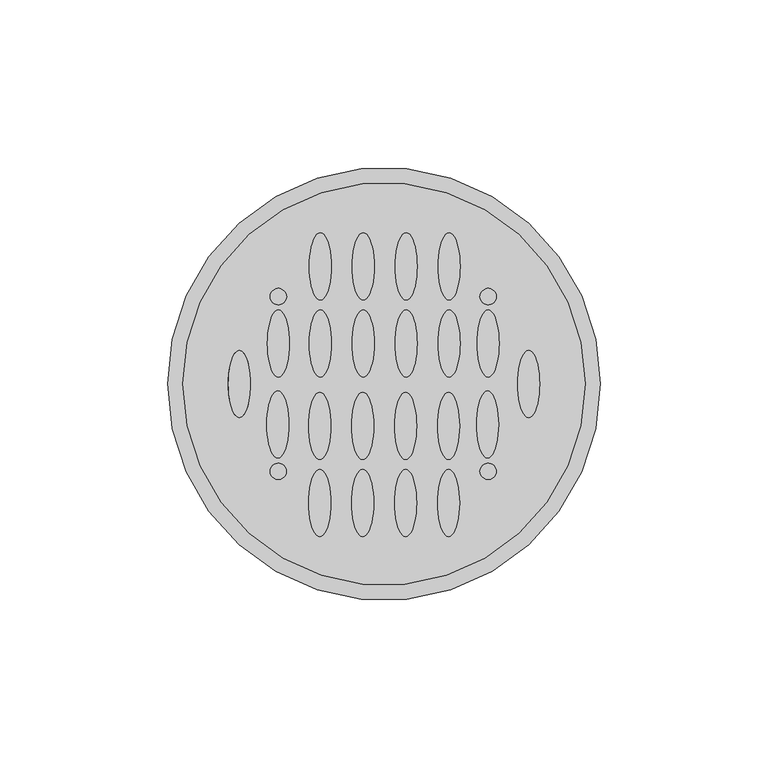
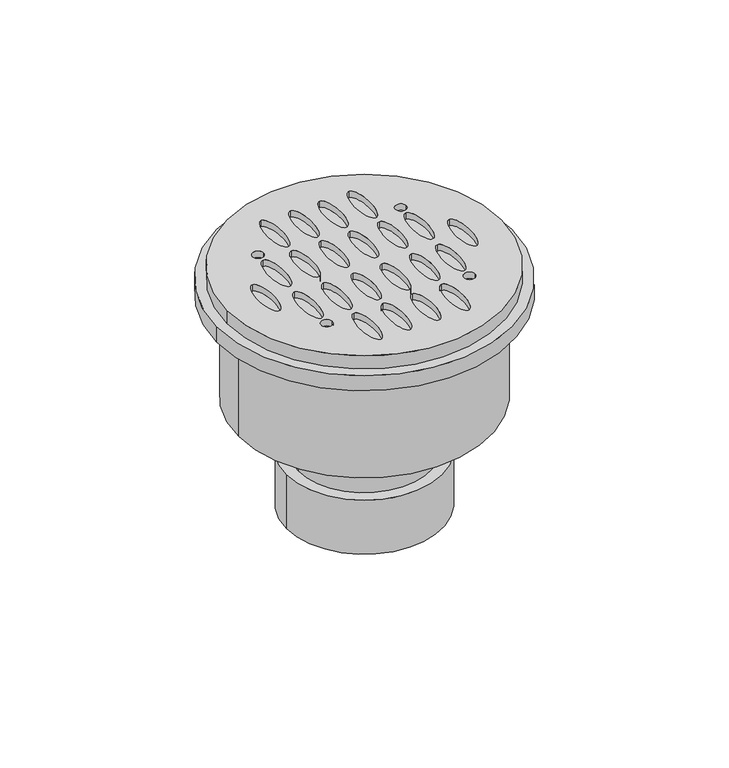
"""IFC4 building model written with IfcOpenShell, lengths in millimetres: pipe fitting geometry, AmancoWavin_Unionesdetubería_SanitarioPVCColaderaSanitariaCementar : Cementar 110 mm."""

import ifcopenshell
import ifcopenshell.guid

model = None  # the IFC model being written
_history = None  # IfcOwnerHistory: only IFC2X3 demands one
_inside = {}  # id of a spatial element -> (the spatial element, [elements in it])
_under = {}  # id of a project, library or spatial element -> (it, [spatial elements below it])
_declared = {}  # id of a project -> (the project, [libraries it declares])
_typed = {}  # id of a type object -> (the type object, [elements of that type])
_made_of = {}  # id of a material, layer set ... -> (it, [elements and type objects made of it])


def new_model(schema):
    """Start an empty IFC model of exactly this schema.

    Asked for "IFC4X3", IfcOpenShell would pick the latest addendum, in which some entities
    have other attributes; the version numbers below select the first issue.
    IFC2X3 requires an IfcOwnerHistory on every rooted entity: one is made here for all.
    """
    global model, _history
    if schema == "IFC4X3":
        model = ifcopenshell.file(schema_version=(4, 3, 0, 0))
    else:
        model = ifcopenshell.file(schema=schema)
    _inside.clear()
    _under.clear()
    _declared.clear()
    _typed.clear()
    _made_of.clear()
    _history = None
    if model.schema == "IFC2X3":
        org = make("IfcOrganization", Name="unknown")
        user = make(
            "IfcPersonAndOrganization",
            ThePerson=make("IfcPerson", FamilyName="unknown"),
            TheOrganization=org,
        )
        app = make(
            "IfcApplication",
            ApplicationDeveloper=org,
            Version="unknown",
            ApplicationFullName="unknown",
            ApplicationIdentifier="unknown",
        )
        _history = make(
            "IfcOwnerHistory",
            OwningUser=user,
            OwningApplication=app,
            ChangeAction="ADDED",
            CreationDate=0,
        )
    return model


def make(cls, **values):
    """One entity of the class cls with the attributes given. An attribute that is None is left unset."""
    return model.create_entity(
        cls, **{name: value for name, value in values.items() if value is not None}
    )


def rooted(cls, **values):
    """An entity with a GlobalId (a new one), such as an element, a storey or a relation."""
    return make(cls, GlobalId=ifcopenshell.guid.new(), OwnerHistory=_history, **values)


def si_unit(unit_type, name, prefix=None):
    """IfcSIUnit, for example si_unit("LENGTHUNIT", "METRE", prefix="MILLI")."""
    return make("IfcSIUnit", UnitType=unit_type, Prefix=prefix, Name=name)


def assignment(units):
    """IfcUnitAssignment: the units of a project."""
    return None if units is None else make("IfcUnitAssignment", Units=units)


def point(xyz):
    """IfcCartesianPoint."""
    return None if xyz is None else make("IfcCartesianPoint", Coordinates=xyz)


def direction(xyz):
    """IfcDirection."""
    return None if xyz is None else make("IfcDirection", DirectionRatios=xyz)


def frame(location, z_axis=None, x_axis=None):
    """IfcAxis2Placement3D, a coordinate frame: its origin and axes. An axis left out is left unset."""
    return make(
        "IfcAxis2Placement3D",
        Location=point(location),
        Axis=direction(z_axis),
        RefDirection=direction(x_axis),
    )


def frame_2d(location, x_axis=None):
    """IfcAxis2Placement2D, a coordinate frame in the plane: its origin and x axis."""
    return make(
        "IfcAxis2Placement2D", Location=point(location), RefDirection=direction(x_axis)
    )


def origin():
    """The frame at (0, 0, 0) with its axes left unset."""
    return frame((0.0, 0.0, 0.0))


def origin_with_axes():
    """The frame at (0, 0, 0) with the z axis (0, 0, 1) and the x axis (1, 0, 0) written out."""
    return frame((0.0, 0.0, 0.0), z_axis=(0.0, 0.0, 1.0), x_axis=(1.0, 0.0, 0.0))


def origin_2d():
    """The frame at (0, 0) in the plane with its x axis left unset."""
    return frame_2d((0.0, 0.0))


def place(relative_to, where):
    """IfcLocalPlacement: puts the frame where relative to a parent placement (None: the world)."""
    return make(
        "IfcLocalPlacement", PlacementRelTo=relative_to, RelativePlacement=where
    )


def context(
    kind, dimensions, precision=None, world=None, true_north=None, identifier=None
):
    """IfcGeometricRepresentationContext, for example the 3D "Model" context."""
    return make(
        "IfcGeometricRepresentationContext",
        ContextIdentifier=identifier,
        ContextType=kind,
        CoordinateSpaceDimension=dimensions,
        Precision=precision,
        WorldCoordinateSystem=world,
        TrueNorth=true_north,
    )


def project(units=None, contexts=None):
    """IfcProject with its units and contexts."""
    return rooted(
        "IfcProject",
        Name="project",
        RepresentationContexts=contexts,
        UnitsInContext=assignment(units),
    )


def spatial(cls, under=None, at=None, **own):
    """A site, building, storey or space (cls), placed at a placement, below another one or the project."""
    s = rooted(cls, ObjectPlacement=at, **own)
    if under is not None:
        _under.setdefault(under.id(), (under, []))[1].append(s)
    return s


def polyline(points):
    """IfcPolyline through the points."""
    return make("IfcPolyline", Points=[point(p) for p in points])


def circle_curve(where, radius):
    """IfcCircle in the frame where."""
    return make("IfcCircle", Position=where, Radius=radius)


def ellipse_curve(where, semi_axis1, semi_axis2):
    """IfcEllipse in the frame where."""
    return make(
        "IfcEllipse", Position=where, SemiAxis1=semi_axis1, SemiAxis2=semi_axis2
    )


def trimmed(basis, trim1, trim2, sense, master):
    """IfcTrimmedCurve: the piece of a basis curve between two trims."""
    return make(
        "IfcTrimmedCurve",
        BasisCurve=basis,
        Trim1=trim1,
        Trim2=trim2,
        SenseAgreement=sense,
        MasterRepresentation=master,
    )


def segment(curve, same_sense, transition):
    """IfcCompositeCurveSegment."""
    return make(
        "IfcCompositeCurveSegment",
        Transition=transition,
        SameSense=same_sense,
        ParentCurve=curve,
    )


def composite_curve(segments, self_intersect=None):
    """IfcCompositeCurve: segments joined end to end."""
    return make("IfcCompositeCurve", Segments=segments, SelfIntersect=self_intersect)


def outline(outer, holes=None, kind="AREA"):
    """IfcArbitraryClosedProfileDef: a profile drawn as a closed curve; with holes, ...WithVoids."""
    if holes is None:
        return make("IfcArbitraryClosedProfileDef", ProfileType=kind, OuterCurve=outer)
    return make(
        "IfcArbitraryProfileDefWithVoids",
        ProfileType=kind,
        OuterCurve=outer,
        InnerCurves=holes,
    )


def extrude(swept, where, along, depth):
    """IfcExtrudedAreaSolid: the profile swept, set in the frame where, extruded along a direction by depth."""
    return make(
        "IfcExtrudedAreaSolid",
        SweptArea=swept,
        Position=where,
        ExtrudedDirection=direction(along),
        Depth=depth,
    )


def shape(context_of_items, identifier, shape_type, items):
    """IfcShapeRepresentation: the items that make up one representation, for example the "Body"."""
    return make(
        "IfcShapeRepresentation",
        ContextOfItems=context_of_items,
        RepresentationIdentifier=identifier,
        RepresentationType=shape_type,
        Items=items,
    )


def source(mapping_origin, context_of_items, identifier, shape_type, items):
    """IfcRepresentationMap: a shape defined once, which mapped items show again and again."""
    return make(
        "IfcRepresentationMap",
        MappingOrigin=mapping_origin,
        MappedRepresentation=shape(context_of_items, identifier, shape_type, items),
    )


def transform(
    local_origin,
    x_axis=None,
    y_axis=None,
    z_axis=None,
    scale=None,
    scale2=None,
    scale3=None,
    uniform=True,
):
    """IfcCartesianTransformationOperator3D, or its non-uniform kind. x_axis, y_axis, z_axis: its Axis1, 2, 3."""
    if uniform:
        return make(
            "IfcCartesianTransformationOperator3D",
            Axis1=direction(x_axis),
            Axis2=direction(y_axis),
            LocalOrigin=point(local_origin),
            Scale=scale,
            Axis3=direction(z_axis),
        )
    return make(
        "IfcCartesianTransformationOperator3DnonUniform",
        Axis1=direction(x_axis),
        Axis2=direction(y_axis),
        LocalOrigin=point(local_origin),
        Scale=scale,
        Axis3=direction(z_axis),
        Scale2=scale2,
        Scale3=scale3,
    )


def mapped(mapping_source, mapping_target):
    """IfcMappedItem: shows the shape of a source again, moved by a transform."""
    return make(
        "IfcMappedItem", MappingSource=mapping_source, MappingTarget=mapping_target
    )


def made_of(thing, what):
    """Note that an element or type object is made of a material, layer set ...; save() writes the relation."""
    if what is not None:
        _made_of.setdefault(what.id(), (what, []))[1].append(thing)
    return thing


def element(
    cls,
    number,
    at=None,
    inside=None,
    cuts=None,
    type_object=None,
    material=None,
    context=None,
    identifier="Body",
    shape_type=None,
    held_by="IfcProductDefinitionShape",
    body=None,
    shapes=None,
    **own,
):
    """One element of the class cls, such as IfcWall. Its Tag is "e" and its number.

    at: its placement. inside: the storey or other place that contains it. cuts: it is an
    opening in that element (IfcRelVoidsElement). A single representation is given by context,
    identifier, shape_type and body (its items); several are given by shapes. held_by: the class
    of the entity that holds the representations. save() writes the other relations.
    """
    e = rooted(cls, Tag="e%d" % number, ObjectPlacement=at, **own)
    if body is not None:
        shapes = [shape(context, identifier, shape_type, body)]
    if shapes is not None:
        e.Representation = make(held_by, Representations=shapes)
    if inside is not None:
        _inside.setdefault(inside.id(), (inside, []))[1].append(e)
    if cuts is not None:
        rooted(
            "IfcRelVoidsElement", RelatingBuildingElement=cuts, RelatedOpeningElement=e
        )
    if type_object is not None:
        _typed.setdefault(type_object.id(), (type_object, []))[1].append(e)
    return made_of(e, material)


def aggregate(whole, parts):
    """IfcRelAggregates: a whole, such as a stair, and the parts it consists of."""
    return rooted("IfcRelAggregates", RelatingObject=whole, RelatedObjects=parts)


def save(model, path):
    """Write the relations noted so far, then the file.

    IfcRelAggregates (storeys below a building ...), IfcRelContainedInSpatialStructure (elements
    in a storey), IfcRelDefinesByType, IfcRelAssociatesMaterial and IfcRelDeclares: one each for
    every whole, place, type object, material and project.
    """
    for whole, parts in _under.values():
        aggregate(whole, parts)
    for where, things in _inside.values():
        rooted(
            "IfcRelContainedInSpatialStructure",
            RelatedElements=things,
            RelatingStructure=where,
        )
    for kind, things in _typed.values():
        rooted("IfcRelDefinesByType", RelatedObjects=things, RelatingType=kind)
    for what, things in _made_of.values():
        rooted("IfcRelAssociatesMaterial", RelatedObjects=things, RelatingMaterial=what)
    for by, libraries in _declared.values():
        rooted("IfcRelDeclares", RelatingContext=by, RelatedDefinitions=libraries)
    model.write(path)


def plane_surface(at):
    """IfcPlane: the flat surface through the origin of the frame at, square to its z axis."""
    return make("IfcPlane", Position=at)


def cylinder_surface(at, radius):
    """IfcCylindricalSurface: all points at the distance radius from the z axis of the frame at."""
    return make("IfcCylindricalSurface", Position=at, Radius=radius)


def revolved_surface(curve, axis_point, axis_direction):
    """IfcSurfaceOfRevolution: the curve turned about the line through axis_point along axis_direction."""
    return make(
        "IfcSurfaceOfRevolution",
        SweptCurve=make("IfcArbitraryOpenProfileDef", ProfileType="CURVE", Curve=curve),
        AxisPosition=make("IfcAxis1Placement", Location=point(axis_point), Axis=direction(axis_direction)),
    )


def extruded_surface(curve, direction_of_extrusion, depth):
    """IfcSurfaceOfLinearExtrusion: the curve pushed along a direction by depth."""
    return make(
        "IfcSurfaceOfLinearExtrusion",
        SweptCurve=make("IfcArbitraryOpenProfileDef", ProfileType="CURVE", Curve=curve),
        ExtrudedDirection=direction(direction_of_extrusion),
        Depth=depth,
    )


def advanced_brep(points, edges, surfaces, faces):
    """IfcAdvancedBrep: a solid bounded by faces that lie on surfaces and meet in shared edges.

    An edge is (start, end): straight between two places in points (the first is 0);
    or (start, end, curve); or (start, end, curve, False) where it runs against its curve.
    A face is (place in surfaces, loops), or (place, loops, False) where it looks against
    its surface's normal. A loop lists edges by number (the first is 1), with a minus sign
    where the edge is run from its end to its start. The first loop is the outer one.
    """
    corners = [point(p) for p in points]
    vertices = [make("IfcVertexPoint", VertexGeometry=c) for c in corners]
    made = []
    for start, end, *more in edges:
        made.append(
            make(
                "IfcEdgeCurve",
                EdgeStart=vertices[start],
                EdgeEnd=vertices[end],
                EdgeGeometry=more[0] if more else make("IfcPolyline", Points=[corners[start], corners[end]]),
                SameSense=more[1] if len(more) > 1 else True,
            )
        )
    hull = []
    for where, loops, *sense in faces:
        bounds = []
        for j, loop in enumerate(loops):
            ring = [make("IfcOrientedEdge", EdgeElement=made[abs(k) - 1], Orientation=k > 0) for k in loop]
            bounds.append(
                make(
                    "IfcFaceOuterBound" if j == 0 else "IfcFaceBound",
                    Bound=make("IfcEdgeLoop", EdgeList=ring),
                    Orientation=True,
                )
            )
        hull.append(make("IfcAdvancedFace", Bounds=bounds, FaceSurface=surfaces[where], SameSense=sense[0] if sense else True))
    return make("IfcAdvancedBrep", Outer=make("IfcClosedShell", CfsFaces=hull))


def pipe_fitting_52427b94(model_context):
    return source(origin(), model_context, "Body", "SolidModel", [
        advanced_brep(
        [(-60.0, 0.0, 7.0), (60.0, 0.0, 7.0), (-60.0, 0.0, 13.0), (60.0, 0.0, 13.0), (-43.125, 10.0, 13.0), (-43.125, -10.0, 13.0), (-31.4848922, 22.0632684, 13.0), (-31.4848922, 2.0632684, 13.0), (-31.6489621, -2.0699379, 13.0), (-31.6489621, -22.0699379, 13.0), (-29.0574539, 26.0632635, 13.0), (-33.8998162, 26.0632635, 13.0), (-29.068906, -26.0667815, 13.0), (-33.9112683, -26.0667815, 13.0), (-18.9848922, 22.0632684, 13.0), (-18.9848922, 2.0632684, 13.0), (-19.1489621, -2.5, 13.0), (-19.1489621, -22.5, 13.0), (-18.9848922, 45.0632684, 13.0), (-18.9848922, 25.0632684, 13.0), (-19.1489621, -25.5, 13.0), (-19.1489621, -45.5, 13.0), (-6.1848922, 22.0632684, 13.0), (-6.1848922, 2.0632684, 13.0), (-6.3489621, -2.5, 13.0), (-6.3489621, -22.5, 13.0), (-6.1848922, 45.0632684, 13.0), (-6.1848922, 25.0632684, 13.0), (-6.3489621, -25.5, 13.0), (-6.3489621, -45.5, 13.0), (6.6151078, 22.0632684, 13.0), (6.6151078, 2.0632684, 13.0), (6.4510379, -2.5, 13.0), (6.4510379, -22.5, 13.0), (6.6151078, 45.0632684, 13.0), (6.6151078, 25.0632684, 13.0), (6.4510379, -25.5, 13.0), (6.4510379, -45.5, 13.0), (19.4151078, 22.0632684, 13.0), (19.4151078, 2.0632684, 13.0), (19.2510379, -2.5, 13.0), (19.2510379, -22.5, 13.0), (19.4151078, 45.0632684, 13.0), (19.4151078, 25.0632684, 13.0), (19.2510379, -25.5, 13.0), (19.2510379, -45.5, 13.0), (31.0501776, 22.0632684, 13.0), (31.0501776, 2.0632684, 13.0), (30.8861078, -2.0699379, 13.0), (30.8861078, -22.0699379, 13.0), (33.477616, 26.0632635, 13.0), (28.6352536, 26.0632635, 13.0), (33.4661638, -26.0667815, 13.0), (28.6238015, -26.0667815, 13.0), (43.1436396, 10.0, 13.0), (43.1436396, -10.0, 13.0), (-43.125, -10.0, 9.9881592), (-43.125, 10.0, 9.9881592), (-31.4848922, 2.0632684, 9.9881592), (-31.4848922, 22.0632684, 9.9881592), (-31.6489621, -22.0699379, 9.9881592), (-31.6489621, -2.0699379, 9.9881592), (-33.8998162, 26.0632635, 9.9881592), (-29.0574539, 26.0632635, 9.9881592), (-33.9112683, -26.0667815, 9.9881592), (-29.068906, -26.0667815, 9.9881592), (-18.9848922, 2.0632684, 9.9881592), (-18.9848922, 22.0632684, 9.9881592), (-19.1489621, -22.5, 9.9881592), (-19.1489621, -2.5, 9.9881592), (-18.9848922, 25.0632684, 9.9881592), (-18.9848922, 45.0632684, 9.9881592), (-19.1489621, -45.5, 9.9881592), (-19.1489621, -25.5, 9.9881592), (-6.1848922, 2.0632684, 9.9881592), (-6.1848922, 22.0632684, 9.9881592), (-6.3489621, -22.5, 9.9881592), (-6.3489621, -2.5, 9.9881592), (-6.1848922, 25.0632684, 9.9881592), (-6.1848922, 45.0632684, 9.9881592), (-6.3489621, -45.5, 9.9881592), (-6.3489621, -25.5, 9.9881592), (6.6151078, 2.0632684, 9.9881592), (6.6151078, 22.0632684, 9.9881592), (6.4510379, -22.5, 9.9881592), (6.4510379, -2.5, 9.9881592), (6.6151078, 25.0632684, 9.9881592), (6.6151078, 45.0632684, 9.9881592), (6.4510379, -45.5, 9.9881592), (6.4510379, -25.5, 9.9881592), (19.4151078, 2.0632684, 9.9881592), (19.4151078, 22.0632684, 9.9881592), (19.2510379, -22.5, 9.9881592), (19.2510379, -2.5, 9.9881592), (19.4151078, 25.0632684, 9.9881592), (19.4151078, 45.0632684, 9.9881592), (19.2510379, -45.5, 9.9881592), (19.2510379, -25.5, 9.9881592), (31.0501776, 2.0632684, 9.9881592), (31.0501776, 22.0632684, 9.9881592), (30.8861078, -22.0699379, 9.9881592), (30.8861078, -2.0699379, 9.9881592), (28.6352536, 26.0632635, 9.9881592), (33.477616, 26.0632635, 9.9881592), (28.6238015, -26.0667815, 9.9881592), (33.4661638, -26.0667815, 9.9881592), (43.1436396, -10.0, 9.9881592), (43.1436396, 10.0, 9.9881592)],
        [
            (0, 1, circle_curve(frame((0.0, 0.0, 7.0), z_axis=(0.0, 0.0, -1.0), x_axis=(1.0, 0.0, 0.0)), 60.0)),
            (1, 0, circle_curve(frame((0.0, 0.0, 7.0), z_axis=(0.0, 0.0, -1.0), x_axis=(1.0, 0.0, 0.0)), 60.0)),
            (2, 3, circle_curve(frame((0.0, 0.0, 13.0), z_axis=(0.0, 0.0, 1.0), x_axis=(1.0, 0.0, 0.0)), 60.0)),
            (3, 2, circle_curve(frame((0.0, 0.0, 13.0), z_axis=(0.0, 0.0, 1.0), x_axis=(1.0, 0.0, 0.0)), 60.0)),
            (4, 5, ellipse_curve(frame((-43.125, 0.0, 13.0), z_axis=(0.0, 0.0, -1.0), x_axis=(0.0, 1.0, 0.0)), 10.0, 3.2735089)),
            (5, 4, ellipse_curve(frame((-43.125, 0.0, 13.0), z_axis=(0.0, 0.0, -1.0), x_axis=(0.0, 1.0, 0.0)), 10.0, 3.2735089)),
            (6, 7, ellipse_curve(frame((-31.4848922, 12.0632684, 13.0), z_axis=(0.0, 0.0, -1.0), x_axis=(0.0, 1.0, 0.0)), 10.0, 3.2735089)),
            (7, 6, ellipse_curve(frame((-31.4848922, 12.0632684, 13.0), z_axis=(0.0, 0.0, -1.0), x_axis=(0.0, 1.0, 0.0)), 10.0, 3.2735089)),
            (8, 9, ellipse_curve(frame((-31.6489621, -12.0699379, 13.0), z_axis=(0.0, 0.0, -1.0), x_axis=(0.0, 1.0, 0.0)), 10.0, 3.2735089)),
            (9, 8, ellipse_curve(frame((-31.6489621, -12.0699379, 13.0), z_axis=(0.0, 0.0, -1.0), x_axis=(0.0, 1.0, 0.0)), 10.0, 3.2735089)),
            (10, 11, circle_curve(frame((-31.478635, 26.0632635, 13.0), z_axis=(0.0, 0.0, -1.0), x_axis=(1.0, 0.0, 0.0)), 2.4211812)),
            (11, 10, circle_curve(frame((-31.478635, 26.0632635, 13.0), z_axis=(0.0, 0.0, -1.0), x_axis=(1.0, 0.0, 0.0)), 2.4211812)),
            (12, 13, circle_curve(frame((-31.4900871, -26.0667815, 13.0), z_axis=(0.0, 0.0, -1.0), x_axis=(1.0, 0.0, 0.0)), 2.4211812)),
            (13, 12, circle_curve(frame((-31.4900871, -26.0667815, 13.0), z_axis=(0.0, 0.0, -1.0), x_axis=(1.0, 0.0, 0.0)), 2.4211812)),
            (14, 15, ellipse_curve(frame((-18.9848922, 12.0632684, 13.0), z_axis=(0.0, 0.0, -1.0), x_axis=(0.0, 1.0, 0.0)), 10.0, 3.2735089)),
            (15, 14, ellipse_curve(frame((-18.9848922, 12.0632684, 13.0), z_axis=(0.0, 0.0, -1.0), x_axis=(0.0, 1.0, 0.0)), 10.0, 3.2735089)),
            (16, 17, ellipse_curve(frame((-19.1489621, -12.5, 13.0), z_axis=(0.0, 0.0, -1.0), x_axis=(0.0, 1.0, 0.0)), 10.0, 3.2735089)),
            (17, 16, ellipse_curve(frame((-19.1489621, -12.5, 13.0), z_axis=(0.0, 0.0, -1.0), x_axis=(0.0, 1.0, 0.0)), 10.0, 3.2735089)),
            (18, 19, ellipse_curve(frame((-18.9848922, 35.0632684, 13.0), z_axis=(0.0, 0.0, -1.0), x_axis=(0.0, 1.0, 0.0)), 10.0, 3.2735089)),
            (19, 18, ellipse_curve(frame((-18.9848922, 35.0632684, 13.0), z_axis=(0.0, 0.0, -1.0), x_axis=(0.0, 1.0, 0.0)), 10.0, 3.2735089)),
            (20, 21, ellipse_curve(frame((-19.1489621, -35.5, 13.0), z_axis=(0.0, 0.0, -1.0), x_axis=(0.0, 1.0, 0.0)), 10.0, 3.2735089)),
            (21, 20, ellipse_curve(frame((-19.1489621, -35.5, 13.0), z_axis=(0.0, 0.0, -1.0), x_axis=(0.0, 1.0, 0.0)), 10.0, 3.2735089)),
            (22, 23, ellipse_curve(frame((-6.1848922, 12.0632684, 13.0), z_axis=(0.0, 0.0, -1.0), x_axis=(0.0, 1.0, 0.0)), 10.0, 3.2735089)),
            (23, 22, ellipse_curve(frame((-6.1848922, 12.0632684, 13.0), z_axis=(0.0, 0.0, -1.0), x_axis=(0.0, 1.0, 0.0)), 10.0, 3.2735089)),
            (24, 25, ellipse_curve(frame((-6.3489621, -12.5, 13.0), z_axis=(0.0, 0.0, -1.0), x_axis=(0.0, 1.0, 0.0)), 10.0, 3.2735089)),
            (25, 24, ellipse_curve(frame((-6.3489621, -12.5, 13.0), z_axis=(0.0, 0.0, -1.0), x_axis=(0.0, 1.0, 0.0)), 10.0, 3.2735089)),
            (26, 27, ellipse_curve(frame((-6.1848922, 35.0632684, 13.0), z_axis=(0.0, 0.0, -1.0), x_axis=(0.0, 1.0, 0.0)), 10.0, 3.2735089)),
            (27, 26, ellipse_curve(frame((-6.1848922, 35.0632684, 13.0), z_axis=(0.0, 0.0, -1.0), x_axis=(0.0, 1.0, 0.0)), 10.0, 3.2735089)),
            (28, 29, ellipse_curve(frame((-6.3489621, -35.5, 13.0), z_axis=(0.0, 0.0, -1.0), x_axis=(0.0, 1.0, 0.0)), 10.0, 3.2735089)),
            (29, 28, ellipse_curve(frame((-6.3489621, -35.5, 13.0), z_axis=(0.0, 0.0, -1.0), x_axis=(0.0, 1.0, 0.0)), 10.0, 3.2735089)),
            (30, 31, ellipse_curve(frame((6.6151078, 12.0632684, 13.0), z_axis=(0.0, 0.0, -1.0), x_axis=(0.0, 1.0, 0.0)), 10.0, 3.2735089)),
            (31, 30, ellipse_curve(frame((6.6151078, 12.0632684, 13.0), z_axis=(0.0, 0.0, -1.0), x_axis=(0.0, 1.0, 0.0)), 10.0, 3.2735089)),
            (32, 33, ellipse_curve(frame((6.4510379, -12.5, 13.0), z_axis=(0.0, 0.0, -1.0), x_axis=(0.0, 1.0, 0.0)), 10.0, 3.2735089)),
            (33, 32, ellipse_curve(frame((6.4510379, -12.5, 13.0), z_axis=(0.0, 0.0, -1.0), x_axis=(0.0, 1.0, 0.0)), 10.0, 3.2735089)),
            (34, 35, ellipse_curve(frame((6.6151078, 35.0632684, 13.0), z_axis=(0.0, 0.0, -1.0), x_axis=(0.0, 1.0, 0.0)), 10.0, 3.2735089)),
            (35, 34, ellipse_curve(frame((6.6151078, 35.0632684, 13.0), z_axis=(0.0, 0.0, -1.0), x_axis=(0.0, 1.0, 0.0)), 10.0, 3.2735089)),
            (36, 37, ellipse_curve(frame((6.4510379, -35.5, 13.0), z_axis=(0.0, 0.0, -1.0), x_axis=(0.0, 1.0, 0.0)), 10.0, 3.2735089)),
            (37, 36, ellipse_curve(frame((6.4510379, -35.5, 13.0), z_axis=(0.0, 0.0, -1.0), x_axis=(0.0, 1.0, 0.0)), 10.0, 3.2735089)),
            (38, 39, ellipse_curve(frame((19.4151078, 12.0632684, 13.0), z_axis=(0.0, 0.0, -1.0), x_axis=(0.0, 1.0, 0.0)), 10.0, 3.2735089)),
            (39, 38, ellipse_curve(frame((19.4151078, 12.0632684, 13.0), z_axis=(0.0, 0.0, -1.0), x_axis=(0.0, 1.0, 0.0)), 10.0, 3.2735089)),
            (40, 41, ellipse_curve(frame((19.2510379, -12.5, 13.0), z_axis=(0.0, 0.0, -1.0), x_axis=(0.0, 1.0, 0.0)), 10.0, 3.2735089)),
            (41, 40, ellipse_curve(frame((19.2510379, -12.5, 13.0), z_axis=(0.0, 0.0, -1.0), x_axis=(0.0, 1.0, 0.0)), 10.0, 3.2735089)),
            (42, 43, ellipse_curve(frame((19.4151078, 35.0632684, 13.0), z_axis=(0.0, 0.0, -1.0), x_axis=(0.0, 1.0, 0.0)), 10.0, 3.2735089)),
            (43, 42, ellipse_curve(frame((19.4151078, 35.0632684, 13.0), z_axis=(0.0, 0.0, -1.0), x_axis=(0.0, 1.0, 0.0)), 10.0, 3.2735089)),
            (44, 45, ellipse_curve(frame((19.2510379, -35.5, 13.0), z_axis=(0.0, 0.0, -1.0), x_axis=(0.0, 1.0, 0.0)), 10.0, 3.2735089)),
            (45, 44, ellipse_curve(frame((19.2510379, -35.5, 13.0), z_axis=(0.0, 0.0, -1.0), x_axis=(0.0, 1.0, 0.0)), 10.0, 3.2735089)),
            (46, 47, ellipse_curve(frame((31.0501776, 12.0632684, 13.0), z_axis=(0.0, 0.0, -1.0), x_axis=(0.0, 1.0, 0.0)), 10.0, 3.2735089)),
            (47, 46, ellipse_curve(frame((31.0501776, 12.0632684, 13.0), z_axis=(0.0, 0.0, -1.0), x_axis=(0.0, 1.0, 0.0)), 10.0, 3.2735089)),
            (48, 49, ellipse_curve(frame((30.8861078, -12.0699379, 13.0), z_axis=(0.0, 0.0, -1.0), x_axis=(0.0, 1.0, 0.0)), 10.0, 3.2735089)),
            (49, 48, ellipse_curve(frame((30.8861078, -12.0699379, 13.0), z_axis=(0.0, 0.0, -1.0), x_axis=(0.0, 1.0, 0.0)), 10.0, 3.2735089)),
            (50, 51, circle_curve(frame((31.0564348, 26.0632635, 13.0), z_axis=(0.0, 0.0, -1.0), x_axis=(1.0, 0.0, 0.0)), 2.4211812)),
            (51, 50, circle_curve(frame((31.0564348, 26.0632635, 13.0), z_axis=(0.0, 0.0, -1.0), x_axis=(1.0, 0.0, 0.0)), 2.4211812)),
            (52, 53, circle_curve(frame((31.0449827, -26.0667815, 13.0), z_axis=(0.0, 0.0, -1.0), x_axis=(1.0, 0.0, 0.0)), 2.4211812)),
            (53, 52, circle_curve(frame((31.0449827, -26.0667815, 13.0), z_axis=(0.0, 0.0, -1.0), x_axis=(1.0, 0.0, 0.0)), 2.4211812)),
            (54, 55, ellipse_curve(frame((43.1436396, 0.0, 13.0), z_axis=(0.0, 0.0, -1.0), x_axis=(0.0, 1.0, 0.0)), 10.0, 3.2735089)),
            (55, 54, ellipse_curve(frame((43.1436396, 0.0, 13.0), z_axis=(0.0, 0.0, -1.0), x_axis=(0.0, 1.0, 0.0)), 10.0, 3.2735089)),
            (1, 3),
            (2, 0),
            (56, 57, ellipse_curve(frame((-43.125, 0.0, 9.9881592), z_axis=(0.0, 0.0, 1.0), x_axis=(0.0, 1.0, 0.0)), 10.0, 3.2735089)),
            (57, 56, ellipse_curve(frame((-43.125, 0.0, 9.9881592), z_axis=(0.0, 0.0, 1.0), x_axis=(0.0, 1.0, 0.0)), 10.0, 3.2735089)),
            (58, 59, ellipse_curve(frame((-31.4848922, 12.0632684, 9.9881592), z_axis=(0.0, 0.0, 1.0), x_axis=(0.0, 1.0, 0.0)), 10.0, 3.2735089)),
            (59, 58, ellipse_curve(frame((-31.4848922, 12.0632684, 9.9881592), z_axis=(0.0, 0.0, 1.0), x_axis=(0.0, 1.0, 0.0)), 10.0, 3.2735089)),
            (60, 61, ellipse_curve(frame((-31.6489621, -12.0699379, 9.9881592), z_axis=(0.0, 0.0, 1.0), x_axis=(0.0, 1.0, 0.0)), 10.0, 3.2735089)),
            (61, 60, ellipse_curve(frame((-31.6489621, -12.0699379, 9.9881592), z_axis=(0.0, 0.0, 1.0), x_axis=(0.0, 1.0, 0.0)), 10.0, 3.2735089)),
            (62, 63, circle_curve(frame((-31.478635, 26.0632635, 9.9881592), z_axis=(0.0, 0.0, 1.0), x_axis=(1.0, 0.0, 0.0)), 2.4211812)),
            (63, 62, circle_curve(frame((-31.478635, 26.0632635, 9.9881592), z_axis=(0.0, 0.0, 1.0), x_axis=(1.0, 0.0, 0.0)), 2.4211812)),
            (64, 65, circle_curve(frame((-31.4900871, -26.0667815, 9.9881592), z_axis=(0.0, 0.0, 1.0), x_axis=(1.0, 0.0, 0.0)), 2.4211812)),
            (65, 64, circle_curve(frame((-31.4900871, -26.0667815, 9.9881592), z_axis=(0.0, 0.0, 1.0), x_axis=(1.0, 0.0, 0.0)), 2.4211812)),
            (66, 67, ellipse_curve(frame((-18.9848922, 12.0632684, 9.9881592), z_axis=(0.0, 0.0, 1.0), x_axis=(0.0, 1.0, 0.0)), 10.0, 3.2735089)),
            (67, 66, ellipse_curve(frame((-18.9848922, 12.0632684, 9.9881592), z_axis=(0.0, 0.0, 1.0), x_axis=(0.0, 1.0, 0.0)), 10.0, 3.2735089)),
            (68, 69, ellipse_curve(frame((-19.1489621, -12.5, 9.9881592), z_axis=(0.0, 0.0, 1.0), x_axis=(0.0, 1.0, 0.0)), 10.0, 3.2735089)),
            (69, 68, ellipse_curve(frame((-19.1489621, -12.5, 9.9881592), z_axis=(0.0, 0.0, 1.0), x_axis=(0.0, 1.0, 0.0)), 10.0, 3.2735089)),
            (70, 71, ellipse_curve(frame((-18.9848922, 35.0632684, 9.9881592), z_axis=(0.0, 0.0, 1.0), x_axis=(0.0, 1.0, 0.0)), 10.0, 3.2735089)),
            (71, 70, ellipse_curve(frame((-18.9848922, 35.0632684, 9.9881592), z_axis=(0.0, 0.0, 1.0), x_axis=(0.0, 1.0, 0.0)), 10.0, 3.2735089)),
            (72, 73, ellipse_curve(frame((-19.1489621, -35.5, 9.9881592), z_axis=(0.0, 0.0, 1.0), x_axis=(0.0, 1.0, 0.0)), 10.0, 3.2735089)),
            (73, 72, ellipse_curve(frame((-19.1489621, -35.5, 9.9881592), z_axis=(0.0, 0.0, 1.0), x_axis=(0.0, 1.0, 0.0)), 10.0, 3.2735089)),
            (74, 75, ellipse_curve(frame((-6.1848922, 12.0632684, 9.9881592), z_axis=(0.0, 0.0, 1.0), x_axis=(0.0, 1.0, 0.0)), 10.0, 3.2735089)),
            (75, 74, ellipse_curve(frame((-6.1848922, 12.0632684, 9.9881592), z_axis=(0.0, 0.0, 1.0), x_axis=(0.0, 1.0, 0.0)), 10.0, 3.2735089)),
            (76, 77, ellipse_curve(frame((-6.3489621, -12.5, 9.9881592), z_axis=(0.0, 0.0, 1.0), x_axis=(0.0, 1.0, 0.0)), 10.0, 3.2735089)),
            (77, 76, ellipse_curve(frame((-6.3489621, -12.5, 9.9881592), z_axis=(0.0, 0.0, 1.0), x_axis=(0.0, 1.0, 0.0)), 10.0, 3.2735089)),
            (78, 79, ellipse_curve(frame((-6.1848922, 35.0632684, 9.9881592), z_axis=(0.0, 0.0, 1.0), x_axis=(0.0, 1.0, 0.0)), 10.0, 3.2735089)),
            (79, 78, ellipse_curve(frame((-6.1848922, 35.0632684, 9.9881592), z_axis=(0.0, 0.0, 1.0), x_axis=(0.0, 1.0, 0.0)), 10.0, 3.2735089)),
            (80, 81, ellipse_curve(frame((-6.3489621, -35.5, 9.9881592), z_axis=(0.0, 0.0, 1.0), x_axis=(0.0, 1.0, 0.0)), 10.0, 3.2735089)),
            (81, 80, ellipse_curve(frame((-6.3489621, -35.5, 9.9881592), z_axis=(0.0, 0.0, 1.0), x_axis=(0.0, 1.0, 0.0)), 10.0, 3.2735089)),
            (82, 83, ellipse_curve(frame((6.6151078, 12.0632684, 9.9881592), z_axis=(0.0, 0.0, 1.0), x_axis=(0.0, 1.0, 0.0)), 10.0, 3.2735089)),
            (83, 82, ellipse_curve(frame((6.6151078, 12.0632684, 9.9881592), z_axis=(0.0, 0.0, 1.0), x_axis=(0.0, 1.0, 0.0)), 10.0, 3.2735089)),
            (84, 85, ellipse_curve(frame((6.4510379, -12.5, 9.9881592), z_axis=(0.0, 0.0, 1.0), x_axis=(0.0, 1.0, 0.0)), 10.0, 3.2735089)),
            (85, 84, ellipse_curve(frame((6.4510379, -12.5, 9.9881592), z_axis=(0.0, 0.0, 1.0), x_axis=(0.0, 1.0, 0.0)), 10.0, 3.2735089)),
            (86, 87, ellipse_curve(frame((6.6151078, 35.0632684, 9.9881592), z_axis=(0.0, 0.0, 1.0), x_axis=(0.0, 1.0, 0.0)), 10.0, 3.2735089)),
            (87, 86, ellipse_curve(frame((6.6151078, 35.0632684, 9.9881592), z_axis=(0.0, 0.0, 1.0), x_axis=(0.0, 1.0, 0.0)), 10.0, 3.2735089)),
            (88, 89, ellipse_curve(frame((6.4510379, -35.5, 9.9881592), z_axis=(0.0, 0.0, 1.0), x_axis=(0.0, 1.0, 0.0)), 10.0, 3.2735089)),
            (89, 88, ellipse_curve(frame((6.4510379, -35.5, 9.9881592), z_axis=(0.0, 0.0, 1.0), x_axis=(0.0, 1.0, 0.0)), 10.0, 3.2735089)),
            (90, 91, ellipse_curve(frame((19.4151078, 12.0632684, 9.9881592), z_axis=(0.0, 0.0, 1.0), x_axis=(0.0, 1.0, 0.0)), 10.0, 3.2735089)),
            (91, 90, ellipse_curve(frame((19.4151078, 12.0632684, 9.9881592), z_axis=(0.0, 0.0, 1.0), x_axis=(0.0, 1.0, 0.0)), 10.0, 3.2735089)),
            (92, 93, ellipse_curve(frame((19.2510379, -12.5, 9.9881592), z_axis=(0.0, 0.0, 1.0), x_axis=(0.0, 1.0, 0.0)), 10.0, 3.2735089)),
            (93, 92, ellipse_curve(frame((19.2510379, -12.5, 9.9881592), z_axis=(0.0, 0.0, 1.0), x_axis=(0.0, 1.0, 0.0)), 10.0, 3.2735089)),
            (94, 95, ellipse_curve(frame((19.4151078, 35.0632684, 9.9881592), z_axis=(0.0, 0.0, 1.0), x_axis=(0.0, 1.0, 0.0)), 10.0, 3.2735089)),
            (95, 94, ellipse_curve(frame((19.4151078, 35.0632684, 9.9881592), z_axis=(0.0, 0.0, 1.0), x_axis=(0.0, 1.0, 0.0)), 10.0, 3.2735089)),
            (96, 97, ellipse_curve(frame((19.2510379, -35.5, 9.9881592), z_axis=(0.0, 0.0, 1.0), x_axis=(0.0, 1.0, 0.0)), 10.0, 3.2735089)),
            (97, 96, ellipse_curve(frame((19.2510379, -35.5, 9.9881592), z_axis=(0.0, 0.0, 1.0), x_axis=(0.0, 1.0, 0.0)), 10.0, 3.2735089)),
            (98, 99, ellipse_curve(frame((31.0501776, 12.0632684, 9.9881592), z_axis=(0.0, 0.0, 1.0), x_axis=(0.0, 1.0, 0.0)), 10.0, 3.2735089)),
            (99, 98, ellipse_curve(frame((31.0501776, 12.0632684, 9.9881592), z_axis=(0.0, 0.0, 1.0), x_axis=(0.0, 1.0, 0.0)), 10.0, 3.2735089)),
            (100, 101, ellipse_curve(frame((30.8861078, -12.0699379, 9.9881592), z_axis=(0.0, 0.0, 1.0), x_axis=(0.0, 1.0, 0.0)), 10.0, 3.2735089)),
            (101, 100, ellipse_curve(frame((30.8861078, -12.0699379, 9.9881592), z_axis=(0.0, 0.0, 1.0), x_axis=(0.0, 1.0, 0.0)), 10.0, 3.2735089)),
            (102, 103, circle_curve(frame((31.0564348, 26.0632635, 9.9881592), z_axis=(0.0, 0.0, 1.0), x_axis=(1.0, 0.0, 0.0)), 2.4211812)),
            (103, 102, circle_curve(frame((31.0564348, 26.0632635, 9.9881592), z_axis=(0.0, 0.0, 1.0), x_axis=(1.0, 0.0, 0.0)), 2.4211812)),
            (104, 105, circle_curve(frame((31.0449827, -26.0667815, 9.9881592), z_axis=(0.0, 0.0, 1.0), x_axis=(1.0, 0.0, 0.0)), 2.4211812)),
            (105, 104, circle_curve(frame((31.0449827, -26.0667815, 9.9881592), z_axis=(0.0, 0.0, 1.0), x_axis=(1.0, 0.0, 0.0)), 2.4211812)),
            (106, 107, ellipse_curve(frame((43.1436396, 0.0, 9.9881592), z_axis=(0.0, 0.0, 1.0), x_axis=(0.0, 1.0, 0.0)), 10.0, 3.2735089)),
            (107, 106, ellipse_curve(frame((43.1436396, 0.0, 9.9881592), z_axis=(0.0, 0.0, 1.0), x_axis=(0.0, 1.0, 0.0)), 10.0, 3.2735089)),
            (56, 5),
            (4, 57),
            (58, 7),
            (6, 59),
            (60, 9),
            (8, 61),
            (62, 11),
            (10, 63),
            (64, 13),
            (12, 65),
            (66, 15),
            (14, 67),
            (68, 17),
            (16, 69),
            (70, 19),
            (18, 71),
            (72, 21),
            (20, 73),
            (74, 23),
            (22, 75),
            (76, 25),
            (24, 77),
            (78, 27),
            (26, 79),
            (80, 29),
            (28, 81),
            (82, 31),
            (30, 83),
            (84, 33),
            (32, 85),
            (86, 35),
            (34, 87),
            (88, 37),
            (36, 89),
            (90, 39),
            (38, 91),
            (92, 41),
            (40, 93),
            (94, 43),
            (42, 95),
            (96, 45),
            (44, 97),
            (98, 47),
            (46, 99),
            (100, 49),
            (48, 101),
            (102, 51),
            (50, 103),
            (104, 53),
            (52, 105),
            (106, 55),
            (54, 107),
        ],
        [
            plane_surface(frame((60.0, 0.0, 7.0), z_axis=(0.0, 0.0, -1.0), x_axis=(0.0, -1.0, 0.0))),
            plane_surface(frame((60.0, 0.0, 13.0), z_axis=(0.0, 0.0, 1.0), x_axis=(0.0, 1.0, 0.0))),
            cylinder_surface(frame((0.0, 0.0, 7.0), z_axis=(0.0, 0.0, 1.0), x_axis=(1.0, 0.0, 0.0)), 60.0),
            plane_surface(frame((-43.125, 10.0, 9.9881592), z_axis=(0.0, 0.0, 1.0), x_axis=(1.0, 0.0, 0.0))),
            extruded_surface(trimmed(ellipse_curve(frame((-43.125, 0.0, 9.9881592), z_axis=(0.0, 0.0, 1.0), x_axis=(0.0, 1.0, 0.0)), 10.0, 3.2735089), [point((-43.125, -10.0, 9.9881592))], [point((-43.125, 10.0, 9.9881592))], True, "CARTESIAN"), (0.0, 0.0, -3.0118408), 3.0118408),
            extruded_surface(trimmed(ellipse_curve(frame((-43.125, 0.0, 9.9881592), z_axis=(0.0, 0.0, 1.0), x_axis=(0.0, 1.0, 0.0)), 10.0, 3.2735089), [point((-43.125, 10.0, 9.9881592))], [point((-43.125, -10.0, 9.9881592))], True, "CARTESIAN"), (0.0, 0.0, -3.0118408), 3.0118408),
            extruded_surface(trimmed(ellipse_curve(frame((-31.4848922, 12.0632684, 13.0), z_axis=(0.0, 0.0, 1.0), x_axis=(0.0, 1.0, 0.0)), 10.0, 3.2735089), [point((-31.4848922, 2.0632684, 13.0))], [point((-31.4848922, 22.0632684, 13.0))], True, "CARTESIAN"), (0.0, 0.0, -3.0118408), 3.0118408),
            extruded_surface(trimmed(ellipse_curve(frame((-31.4848922, 12.0632684, 13.0), z_axis=(0.0, 0.0, 1.0), x_axis=(0.0, 1.0, 0.0)), 10.0, 3.2735089), [point((-31.4848922, 22.0632684, 13.0))], [point((-31.4848922, 2.0632684, 13.0))], True, "CARTESIAN"), (0.0, 0.0, -3.0118408), 3.0118408),
            extruded_surface(trimmed(ellipse_curve(frame((-31.6489621, -12.0699379, 13.0), z_axis=(0.0, 0.0, 1.0), x_axis=(0.0, 1.0, 0.0)), 10.0, 3.2735089), [point((-31.6489621, -22.0699379, 13.0))], [point((-31.6489621, -2.0699379, 13.0))], True, "CARTESIAN"), (0.0, 0.0, -3.0118408), 3.0118408),
            extruded_surface(trimmed(ellipse_curve(frame((-31.6489621, -12.0699379, 13.0), z_axis=(0.0, 0.0, 1.0), x_axis=(0.0, 1.0, 0.0)), 10.0, 3.2735089), [point((-31.6489621, -2.0699379, 13.0))], [point((-31.6489621, -22.0699379, 13.0))], True, "CARTESIAN"), (0.0, 0.0, -3.0118408), 3.0118408),
            revolved_surface(polyline([(-29.0574538, 26.0632635, 13.0), (-29.0574538, 26.0632635, 9.9881592)]), (-31.478635, 26.0632635, 13.0), (0.0, 0.0, 1.0)),
            revolved_surface(polyline([(-29.0689059, -26.0667815, 13.0), (-29.0689059, -26.0667815, 9.9881592)]), (-31.4900871, -26.0667815, 13.0), (0.0, 0.0, 1.0)),
            extruded_surface(trimmed(ellipse_curve(frame((-18.9848922, 12.0632684, 13.0), z_axis=(0.0, 0.0, 1.0), x_axis=(0.0, 1.0, 0.0)), 10.0, 3.2735089), [point((-18.9848922, 2.0632684, 13.0))], [point((-18.9848922, 22.0632684, 13.0))], True, "CARTESIAN"), (0.0, 0.0, -3.0118408), 3.0118408),
            extruded_surface(trimmed(ellipse_curve(frame((-18.9848922, 12.0632684, 13.0), z_axis=(0.0, 0.0, 1.0), x_axis=(0.0, 1.0, 0.0)), 10.0, 3.2735089), [point((-18.9848922, 22.0632684, 13.0))], [point((-18.9848922, 2.0632684, 13.0))], True, "CARTESIAN"), (0.0, 0.0, -3.0118408), 3.0118408),
            extruded_surface(trimmed(ellipse_curve(frame((-19.1489621, -12.5, 13.0), z_axis=(0.0, 0.0, 1.0), x_axis=(0.0, 1.0, 0.0)), 10.0, 3.2735089), [point((-19.1489621, -22.5, 13.0))], [point((-19.1489621, -2.5, 13.0))], True, "CARTESIAN"), (0.0, 0.0, -3.0118408), 3.0118408),
            extruded_surface(trimmed(ellipse_curve(frame((-19.1489621, -12.5, 13.0), z_axis=(0.0, 0.0, 1.0), x_axis=(0.0, 1.0, 0.0)), 10.0, 3.2735089), [point((-19.1489621, -2.5, 13.0))], [point((-19.1489621, -22.5, 13.0))], True, "CARTESIAN"), (0.0, 0.0, -3.0118408), 3.0118408),
            extruded_surface(trimmed(ellipse_curve(frame((-18.9848922, 35.0632684, 13.0), z_axis=(0.0, 0.0, 1.0), x_axis=(0.0, 1.0, 0.0)), 10.0, 3.2735089), [point((-18.9848922, 25.0632684, 13.0))], [point((-18.9848922, 45.0632684, 13.0))], True, "CARTESIAN"), (0.0, 0.0, -3.0118408), 3.0118408),
            extruded_surface(trimmed(ellipse_curve(frame((-18.9848922, 35.0632684, 13.0), z_axis=(0.0, 0.0, 1.0), x_axis=(0.0, 1.0, 0.0)), 10.0, 3.2735089), [point((-18.9848922, 45.0632684, 13.0))], [point((-18.9848922, 25.0632684, 13.0))], True, "CARTESIAN"), (0.0, 0.0, -3.0118408), 3.0118408),
            extruded_surface(trimmed(ellipse_curve(frame((-19.1489621, -35.5, 13.0), z_axis=(0.0, 0.0, 1.0), x_axis=(0.0, 1.0, 0.0)), 10.0, 3.2735089), [point((-19.1489621, -45.5, 13.0))], [point((-19.1489621, -25.5, 13.0))], True, "CARTESIAN"), (0.0, 0.0, -3.0118408), 3.0118408),
            extruded_surface(trimmed(ellipse_curve(frame((-19.1489621, -35.5, 13.0), z_axis=(0.0, 0.0, 1.0), x_axis=(0.0, 1.0, 0.0)), 10.0, 3.2735089), [point((-19.1489621, -25.5, 13.0))], [point((-19.1489621, -45.5, 13.0))], True, "CARTESIAN"), (0.0, 0.0, -3.0118408), 3.0118408),
            extruded_surface(trimmed(ellipse_curve(frame((-6.1848922, 12.0632684, 13.0), z_axis=(0.0, 0.0, 1.0), x_axis=(0.0, 1.0, 0.0)), 10.0, 3.2735089), [point((-6.1848922, 2.0632684, 13.0))], [point((-6.1848922, 22.0632684, 13.0))], True, "CARTESIAN"), (0.0, 0.0, -3.0118408), 3.0118408),
            extruded_surface(trimmed(ellipse_curve(frame((-6.1848922, 12.0632684, 13.0), z_axis=(0.0, 0.0, 1.0), x_axis=(0.0, 1.0, 0.0)), 10.0, 3.2735089), [point((-6.1848922, 22.0632684, 13.0))], [point((-6.1848922, 2.0632684, 13.0))], True, "CARTESIAN"), (0.0, 0.0, -3.0118408), 3.0118408),
            extruded_surface(trimmed(ellipse_curve(frame((-6.3489621, -12.5, 13.0), z_axis=(0.0, 0.0, 1.0), x_axis=(0.0, 1.0, 0.0)), 10.0, 3.2735089), [point((-6.3489621, -22.5, 13.0))], [point((-6.3489621, -2.5, 13.0))], True, "CARTESIAN"), (0.0, 0.0, -3.0118408), 3.0118408),
            extruded_surface(trimmed(ellipse_curve(frame((-6.3489621, -12.5, 13.0), z_axis=(0.0, 0.0, 1.0), x_axis=(0.0, 1.0, 0.0)), 10.0, 3.2735089), [point((-6.3489621, -2.5, 13.0))], [point((-6.3489621, -22.5, 13.0))], True, "CARTESIAN"), (0.0, 0.0, -3.0118408), 3.0118408),
            extruded_surface(trimmed(ellipse_curve(frame((-6.1848922, 35.0632684, 13.0), z_axis=(0.0, 0.0, 1.0), x_axis=(0.0, 1.0, 0.0)), 10.0, 3.2735089), [point((-6.1848922, 25.0632684, 13.0))], [point((-6.1848922, 45.0632684, 13.0))], True, "CARTESIAN"), (0.0, 0.0, -3.0118408), 3.0118408),
            extruded_surface(trimmed(ellipse_curve(frame((-6.1848922, 35.0632684, 13.0), z_axis=(0.0, 0.0, 1.0), x_axis=(0.0, 1.0, 0.0)), 10.0, 3.2735089), [point((-6.1848922, 45.0632684, 13.0))], [point((-6.1848922, 25.0632684, 13.0))], True, "CARTESIAN"), (0.0, 0.0, -3.0118408), 3.0118408),
            extruded_surface(trimmed(ellipse_curve(frame((-6.3489621, -35.5, 13.0), z_axis=(0.0, 0.0, 1.0), x_axis=(0.0, 1.0, 0.0)), 10.0, 3.2735089), [point((-6.3489621, -45.5, 13.0))], [point((-6.3489621, -25.5, 13.0))], True, "CARTESIAN"), (0.0, 0.0, -3.0118408), 3.0118408),
            extruded_surface(trimmed(ellipse_curve(frame((-6.3489621, -35.5, 13.0), z_axis=(0.0, 0.0, 1.0), x_axis=(0.0, 1.0, 0.0)), 10.0, 3.2735089), [point((-6.3489621, -25.5, 13.0))], [point((-6.3489621, -45.5, 13.0))], True, "CARTESIAN"), (0.0, 0.0, -3.0118408), 3.0118408),
            extruded_surface(trimmed(ellipse_curve(frame((6.6151078, 12.0632684, 13.0), z_axis=(0.0, 0.0, 1.0), x_axis=(0.0, 1.0, 0.0)), 10.0, 3.2735089), [point((6.6151078, 2.0632684, 13.0))], [point((6.6151078, 22.0632684, 13.0))], True, "CARTESIAN"), (0.0, 0.0, -3.0118408), 3.0118408),
            extruded_surface(trimmed(ellipse_curve(frame((6.6151078, 12.0632684, 13.0), z_axis=(0.0, 0.0, 1.0), x_axis=(0.0, 1.0, 0.0)), 10.0, 3.2735089), [point((6.6151078, 22.0632684, 13.0))], [point((6.6151078, 2.0632684, 13.0))], True, "CARTESIAN"), (0.0, 0.0, -3.0118408), 3.0118408),
            extruded_surface(trimmed(ellipse_curve(frame((6.4510379, -12.5, 13.0), z_axis=(0.0, 0.0, 1.0), x_axis=(0.0, 1.0, 0.0)), 10.0, 3.2735089), [point((6.4510379, -22.5, 13.0))], [point((6.4510379, -2.5, 13.0))], True, "CARTESIAN"), (0.0, 0.0, -3.0118408), 3.0118408),
            extruded_surface(trimmed(ellipse_curve(frame((6.4510379, -12.5, 13.0), z_axis=(0.0, 0.0, 1.0), x_axis=(0.0, 1.0, 0.0)), 10.0, 3.2735089), [point((6.4510379, -2.5, 13.0))], [point((6.4510379, -22.5, 13.0))], True, "CARTESIAN"), (0.0, 0.0, -3.0118408), 3.0118408),
            extruded_surface(trimmed(ellipse_curve(frame((6.6151078, 35.0632684, 13.0), z_axis=(0.0, 0.0, 1.0), x_axis=(0.0, 1.0, 0.0)), 10.0, 3.2735089), [point((6.6151078, 25.0632684, 13.0))], [point((6.6151078, 45.0632684, 13.0))], True, "CARTESIAN"), (0.0, 0.0, -3.0118408), 3.0118408),
            extruded_surface(trimmed(ellipse_curve(frame((6.6151078, 35.0632684, 13.0), z_axis=(0.0, 0.0, 1.0), x_axis=(0.0, 1.0, 0.0)), 10.0, 3.2735089), [point((6.6151078, 45.0632684, 13.0))], [point((6.6151078, 25.0632684, 13.0))], True, "CARTESIAN"), (0.0, 0.0, -3.0118408), 3.0118408),
            extruded_surface(trimmed(ellipse_curve(frame((6.4510379, -35.5, 13.0), z_axis=(0.0, 0.0, 1.0), x_axis=(0.0, 1.0, 0.0)), 10.0, 3.2735089), [point((6.4510379, -45.5, 13.0))], [point((6.4510379, -25.5, 13.0))], True, "CARTESIAN"), (0.0, 0.0, -3.0118408), 3.0118408),
            extruded_surface(trimmed(ellipse_curve(frame((6.4510379, -35.5, 13.0), z_axis=(0.0, 0.0, 1.0), x_axis=(0.0, 1.0, 0.0)), 10.0, 3.2735089), [point((6.4510379, -25.5, 13.0))], [point((6.4510379, -45.5, 13.0))], True, "CARTESIAN"), (0.0, 0.0, -3.0118408), 3.0118408),
            extruded_surface(trimmed(ellipse_curve(frame((19.4151078, 12.0632684, 13.0), z_axis=(0.0, 0.0, 1.0), x_axis=(0.0, 1.0, 0.0)), 10.0, 3.2735089), [point((19.4151078, 2.0632684, 13.0))], [point((19.4151078, 22.0632684, 13.0))], True, "CARTESIAN"), (0.0, 0.0, -3.0118408), 3.0118408),
            extruded_surface(trimmed(ellipse_curve(frame((19.4151078, 12.0632684, 13.0), z_axis=(0.0, 0.0, 1.0), x_axis=(0.0, 1.0, 0.0)), 10.0, 3.2735089), [point((19.4151078, 22.0632684, 13.0))], [point((19.4151078, 2.0632684, 13.0))], True, "CARTESIAN"), (0.0, 0.0, -3.0118408), 3.0118408),
            extruded_surface(trimmed(ellipse_curve(frame((19.2510379, -12.5, 13.0), z_axis=(0.0, 0.0, 1.0), x_axis=(0.0, 1.0, 0.0)), 10.0, 3.2735089), [point((19.2510379, -22.5, 13.0))], [point((19.2510379, -2.5, 13.0))], True, "CARTESIAN"), (0.0, 0.0, -3.0118408), 3.0118408),
            extruded_surface(trimmed(ellipse_curve(frame((19.2510379, -12.5, 13.0), z_axis=(0.0, 0.0, 1.0), x_axis=(0.0, 1.0, 0.0)), 10.0, 3.2735089), [point((19.2510379, -2.5, 13.0))], [point((19.2510379, -22.5, 13.0))], True, "CARTESIAN"), (0.0, 0.0, -3.0118408), 3.0118408),
            extruded_surface(trimmed(ellipse_curve(frame((19.4151078, 35.0632684, 13.0), z_axis=(0.0, 0.0, 1.0), x_axis=(0.0, 1.0, 0.0)), 10.0, 3.2735089), [point((19.4151078, 25.0632684, 13.0))], [point((19.4151078, 45.0632684, 13.0))], True, "CARTESIAN"), (0.0, 0.0, -3.0118408), 3.0118408),
            extruded_surface(trimmed(ellipse_curve(frame((19.4151078, 35.0632684, 13.0), z_axis=(0.0, 0.0, 1.0), x_axis=(0.0, 1.0, 0.0)), 10.0, 3.2735089), [point((19.4151078, 45.0632684, 13.0))], [point((19.4151078, 25.0632684, 13.0))], True, "CARTESIAN"), (0.0, 0.0, -3.0118408), 3.0118408),
            extruded_surface(trimmed(ellipse_curve(frame((19.2510379, -35.5, 13.0), z_axis=(0.0, 0.0, 1.0), x_axis=(0.0, 1.0, 0.0)), 10.0, 3.2735089), [point((19.2510379, -45.5, 13.0))], [point((19.2510379, -25.5, 13.0))], True, "CARTESIAN"), (0.0, 0.0, -3.0118408), 3.0118408),
            extruded_surface(trimmed(ellipse_curve(frame((19.2510379, -35.5, 13.0), z_axis=(0.0, 0.0, 1.0), x_axis=(0.0, 1.0, 0.0)), 10.0, 3.2735089), [point((19.2510379, -25.5, 13.0))], [point((19.2510379, -45.5, 13.0))], True, "CARTESIAN"), (0.0, 0.0, -3.0118408), 3.0118408),
            extruded_surface(trimmed(ellipse_curve(frame((31.0501776, 12.0632684, 13.0), z_axis=(0.0, 0.0, 1.0), x_axis=(0.0, 1.0, 0.0)), 10.0, 3.2735089), [point((31.0501776, 2.0632684, 13.0))], [point((31.0501776, 22.0632684, 13.0))], True, "CARTESIAN"), (0.0, 0.0, -3.0118408), 3.0118408),
            extruded_surface(trimmed(ellipse_curve(frame((31.0501776, 12.0632684, 13.0), z_axis=(0.0, 0.0, 1.0), x_axis=(0.0, 1.0, 0.0)), 10.0, 3.2735089), [point((31.0501776, 22.0632684, 13.0))], [point((31.0501776, 2.0632684, 13.0))], True, "CARTESIAN"), (0.0, 0.0, -3.0118408), 3.0118408),
            extruded_surface(trimmed(ellipse_curve(frame((30.8861078, -12.0699379, 13.0), z_axis=(0.0, 0.0, 1.0), x_axis=(0.0, 1.0, 0.0)), 10.0, 3.2735089), [point((30.8861078, -22.0699379, 13.0))], [point((30.8861078, -2.0699379, 13.0))], True, "CARTESIAN"), (0.0, 0.0, -3.0118408), 3.0118408),
            extruded_surface(trimmed(ellipse_curve(frame((30.8861078, -12.0699379, 13.0), z_axis=(0.0, 0.0, 1.0), x_axis=(0.0, 1.0, 0.0)), 10.0, 3.2735089), [point((30.8861078, -2.0699379, 13.0))], [point((30.8861078, -22.0699379, 13.0))], True, "CARTESIAN"), (0.0, 0.0, -3.0118408), 3.0118408),
            revolved_surface(polyline([(33.477616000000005, 26.0632635, 13.0), (33.477616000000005, 26.0632635, 9.9881592)]), (31.0564348, 26.0632635, 13.0), (0.0, 0.0, 1.0)),
            revolved_surface(polyline([(33.4661639, -26.0667815, 13.0), (33.4661639, -26.0667815, 9.9881592)]), (31.0449827, -26.0667815, 13.0), (0.0, 0.0, 1.0)),
            extruded_surface(trimmed(ellipse_curve(frame((43.1436396, 0.0, 13.0), z_axis=(0.0, 0.0, 1.0), x_axis=(0.0, 1.0, 0.0)), 10.0, 3.2735089), [point((43.1436396, -10.0, 13.0))], [point((43.1436396, 10.0, 13.0))], True, "CARTESIAN"), (0.0, 0.0, -3.0118408), 3.0118408),
            extruded_surface(trimmed(ellipse_curve(frame((43.1436396, 0.0, 13.0), z_axis=(0.0, 0.0, 1.0), x_axis=(0.0, 1.0, 0.0)), 10.0, 3.2735089), [point((43.1436396, 10.0, 13.0))], [point((43.1436396, -10.0, 13.0))], True, "CARTESIAN"), (0.0, 0.0, -3.0118408), 3.0118408),
        ],
        [
            (0, [[1, 2]]),
            (1, [[3, 4], [5, 6], [7, 8], [9, 10], [11, 12], [13, 14], [15, 16], [17, 18], [19, 20], [21, 22], [23, 24], [25, 26], [27, 28], [29, 30], [31, 32], [33, 34], [35, 36], [37, 38], [39, 40], [41, 42], [43, 44], [45, 46], [47, 48], [49, 50], [51, 52], [53, 54], [55, 56]]),
            (2, [[-2, 57, -3, 58]]),
            (2, [[-1, -58, -4, -57]]),
            (3, [[59, 60]]),
            (3, [[61, 62]]),
            (3, [[63, 64]]),
            (3, [[65, 66]]),
            (3, [[67, 68]]),
            (3, [[69, 70]]),
            (3, [[71, 72]]),
            (3, [[73, 74]]),
            (3, [[75, 76]]),
            (3, [[77, 78]]),
            (3, [[79, 80]]),
            (3, [[81, 82]]),
            (3, [[83, 84]]),
            (3, [[85, 86]]),
            (3, [[87, 88]]),
            (3, [[89, 90]]),
            (3, [[91, 92]]),
            (3, [[93, 94]]),
            (3, [[95, 96]]),
            (3, [[97, 98]]),
            (3, [[99, 100]]),
            (3, [[101, 102]]),
            (3, [[103, 104]]),
            (3, [[105, 106]]),
            (3, [[107, 108]]),
            (3, [[109, 110]]),
            (4, [[-59, 111, -5, 112]]),
            (5, [[-60, -112, -6, -111]]),
            (6, [[-61, 113, -7, 114]]),
            (7, [[-62, -114, -8, -113]]),
            (8, [[-63, 115, -9, 116]]),
            (9, [[-64, -116, -10, -115]]),
            (10, [[-65, 117, -11, 118]]),
            (10, [[-66, -118, -12, -117]]),
            (11, [[-67, 119, -13, 120]]),
            (11, [[-68, -120, -14, -119]]),
            (12, [[-69, 121, -15, 122]]),
            (13, [[-70, -122, -16, -121]]),
            (14, [[-71, 123, -17, 124]]),
            (15, [[-72, -124, -18, -123]]),
            (16, [[-73, 125, -19, 126]]),
            (17, [[-74, -126, -20, -125]]),
            (18, [[-75, 127, -21, 128]]),
            (19, [[-76, -128, -22, -127]]),
            (20, [[-77, 129, -23, 130]]),
            (21, [[-78, -130, -24, -129]]),
            (22, [[-79, 131, -25, 132]]),
            (23, [[-80, -132, -26, -131]]),
            (24, [[-81, 133, -27, 134]]),
            (25, [[-82, -134, -28, -133]]),
            (26, [[-83, 135, -29, 136]]),
            (27, [[-84, -136, -30, -135]]),
            (28, [[-85, 137, -31, 138]]),
            (29, [[-86, -138, -32, -137]]),
            (30, [[-87, 139, -33, 140]]),
            (31, [[-88, -140, -34, -139]]),
            (32, [[-89, 141, -35, 142]]),
            (33, [[-90, -142, -36, -141]]),
            (34, [[-91, 143, -37, 144]]),
            (35, [[-92, -144, -38, -143]]),
            (36, [[-93, 145, -39, 146]]),
            (37, [[-94, -146, -40, -145]]),
            (38, [[-95, 147, -41, 148]]),
            (39, [[-96, -148, -42, -147]]),
            (40, [[-97, 149, -43, 150]]),
            (41, [[-98, -150, -44, -149]]),
            (42, [[-99, 151, -45, 152]]),
            (43, [[-100, -152, -46, -151]]),
            (44, [[-101, 153, -47, 154]]),
            (45, [[-102, -154, -48, -153]]),
            (46, [[-103, 155, -49, 156]]),
            (47, [[-104, -156, -50, -155]]),
            (48, [[-105, 157, -51, 158]]),
            (48, [[-106, -158, -52, -157]]),
            (49, [[-107, 159, -53, 160]]),
            (49, [[-108, -160, -54, -159]]),
            (50, [[-109, 161, -55, 162]]),
            (51, [[-110, -162, -56, -161]]),
        ],
    ),
        advanced_brep(
        [(-32.5, 0.0, -47.0), (32.5, 0.0, -47.0), (-29.0, 0.0, -72.0), (29.0, 0.0, -72.0)],
        [
            (0, 1, circle_curve(frame((0.0, 0.0, -47.0), z_axis=(0.0, 0.0, 1.0), x_axis=(-1.0, 0.0, 0.0)), 32.5)),
            (1, 0, circle_curve(frame((0.0, 0.0, -47.0), z_axis=(0.0, 0.0, 1.0), x_axis=(1.0, 0.0, 0.0)), 32.5)),
            (2, 3, circle_curve(frame((0.0, 0.0, -72.0), z_axis=(0.0, 0.0, -1.0), x_axis=(1.0, 0.0, 0.0)), 29.0)),
            (3, 2, circle_curve(frame((0.0, 0.0, -72.0), z_axis=(0.0, 0.0, -1.0), x_axis=(-1.0, 0.0, 0.0)), 29.0)),
            (2, 0),
            (1, 3),
        ],
        [
            plane_surface(frame((0.0, 0.0, -47.0), z_axis=(0.0, 0.0, 1.0), x_axis=(0.0, -1.0, 0.0))),
            plane_surface(frame((0.0, 0.0, -72.0), z_axis=(0.0, 0.0, -1.0), x_axis=(0.0, -1.0, 0.0))),
            revolved_surface(polyline([(-28.999999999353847, 0.0, -72.0), (-32.5, 0.0, -47.0)]), (0.0, 0.0, -279.1428571), (0.0, 0.0, 1.0)),
            revolved_surface(polyline([(28.999999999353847, 0.0, -72.0), (32.5, 0.0, -47.0)]), (0.0, 0.0, -279.1428571), (0.0, 0.0, 1.0)),
        ],
        [
            (0, [[1, 2]]),
            (1, [[3, 4]]),
            (2, [[-3, 5, -2, 6]]),
            (3, [[-4, -6, -1, -5]]),
        ],
    ),
        extrude(outline(composite_curve([segment(trimmed(circle_curve(origin_2d(), 34.0), [point((-34.0, 0.0))], [point((34.0, 0.0))], False, "CARTESIAN"), True, "CONTINUOUS"), segment(trimmed(circle_curve(origin_2d(), 34.0), [point((34.0, 0.0))], [point((-34.0, 0.0))], False, "CARTESIAN"), True, "CONTINUOUS")], self_intersect=False)), frame((0.0, 0.0, -97.0), z_axis=(0.0, 0.0, 1.0), x_axis=(1.0, 0.0, 0.0)), (0.0, 0.0, 1.0), 25.0),
        extrude(outline(composite_curve([segment(trimmed(circle_curve(origin_2d(), 55.0), [point((-55.0, 0.0))], [point((55.0, 0.0))], False, "CARTESIAN"), True, "CONTINUOUS"), segment(trimmed(circle_curve(origin_2d(), 55.0), [point((55.0, 0.0))], [point((-55.0, 0.0))], False, "CARTESIAN"), True, "CONTINUOUS")], self_intersect=False), holes=[composite_curve([segment(trimmed(circle_curve(origin_2d(), 53.0), [point((-53.0, 0.0))], [point((53.0, 0.0))], True, "CARTESIAN"), True, "CONTINUOUS"), segment(trimmed(circle_curve(origin_2d(), 53.0), [point((53.0, 0.0))], [point((-53.0, 0.0))], True, "CARTESIAN"), True, "CONTINUOUS")], self_intersect=False)]), frame((0.0, 0.0, -47.0), z_axis=(0.0, 0.0, 1.0), x_axis=(1.0, 0.0, 0.0)), (0.0, 0.0, 1.0), 47.0),
        extrude(outline(composite_curve([segment(trimmed(circle_curve(origin_2d(), 64.5), [point((-64.5, 0.0))], [point((64.5, 0.0))], False, "CARTESIAN"), True, "CONTINUOUS"), segment(trimmed(circle_curve(origin_2d(), 64.5), [point((64.5, 0.0))], [point((-64.5, 0.0))], False, "CARTESIAN"), True, "CONTINUOUS")], self_intersect=False), holes=[composite_curve([segment(trimmed(circle_curve(origin_2d(), 55.0), [point((-55.0, 0.0))], [point((55.0, 0.0))], True, "CARTESIAN"), True, "CONTINUOUS"), segment(trimmed(circle_curve(origin_2d(), 55.0), [point((55.0, 0.0))], [point((-55.0, 0.0))], True, "CARTESIAN"), True, "CONTINUOUS")], self_intersect=False)]), origin_with_axes(), (0.0, 0.0, 1.0), 7.0),
    ])


if __name__ == "__main__":
    model = new_model("IFC4")
    model_context = context("Model", 3, world=origin())
    ifc_project = project(units=[si_unit("LENGTHUNIT", "METRE", prefix="MILLI")], contexts=[model_context])
    site = spatial("IfcSite", under=ifc_project)
    building = spatial("IfcBuilding", under=site)
    placement = place(None, origin())
    pipe_fitting_shape = pipe_fitting_52427b94(model_context)
    element("IfcPipeFitting", 1, ObjectType="AmancoWavin_Unionesdetubería_SanitarioPVCColaderaSanitariaCementar : Cementar 110 mm", at=placement, inside=building, context=model_context, shape_type="MappedRepresentation", body=[
        mapped(pipe_fitting_shape, transform((0.0, 0.0, 0.0), x_axis=(1.0, 0.0, 0.0), y_axis=(0.0, 1.0, 0.0), z_axis=(0.0, 0.0, 1.0))),
    ])
    save(model, "model.ifc")
